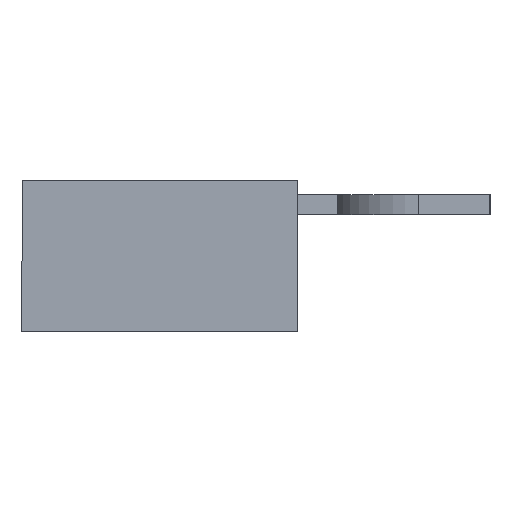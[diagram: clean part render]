
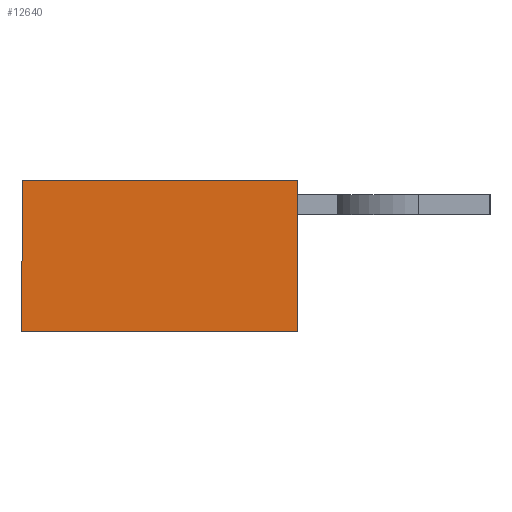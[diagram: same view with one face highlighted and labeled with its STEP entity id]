
A CAD part, left-side view. The second image highlights one B-rep face of the part: STEP entity #12640.
In plain terms, the highlighted planar face has unit normal (-1, 0, 0).
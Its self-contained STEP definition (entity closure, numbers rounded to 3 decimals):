
#122 = EDGE_CURVE ( 'NONE', #16630, #7604, #587, .T. ) ;
#587 = LINE ( 'NONE', #8729, #2507 ) ;
#630 = EDGE_CURVE ( 'NONE', #9150, #16630, #17946, .T. ) ;
#1161 = EDGE_CURVE ( 'NONE', #7087, #9150, #13215, .T. ) ;
#1880 = CARTESIAN_POINT ( 'NONE',  ( 0., 0., 0. ) ) ;
#2165 = CARTESIAN_POINT ( 'NONE',  ( 0., 0., -10.5 ) ) ;
#2507 = VECTOR ( 'NONE', #21323, 1000. ) ;
#3591 = VECTOR ( 'NONE', #22267, 1000. ) ;
#4892 = ORIENTED_EDGE ( 'NONE', *, *, #122, .F. ) ;
#5125 = FACE_OUTER_BOUND ( 'NONE', #13442, .T. ) ;
#6306 = ORIENTED_EDGE ( 'NONE', *, *, #630, .F. ) ;
#7087 = VERTEX_POINT ( 'NONE', #14957 ) ;
#7130 = DIRECTION ( 'NONE',  ( 1., 0., 0. ) ) ;
#7199 = ORIENTED_EDGE ( 'NONE', *, *, #1161, .F. ) ;
#7604 = VERTEX_POINT ( 'NONE', #2165 ) ;
#8539 = VECTOR ( 'NONE', #10444, 1000. ) ;
#8579 = VECTOR ( 'NONE', #21608, 1000. ) ;
#8729 = CARTESIAN_POINT ( 'NONE',  ( 0., 0., -10.5 ) ) ;
#9150 = VERTEX_POINT ( 'NONE', #14058 ) ;
#9755 = AXIS2_PLACEMENT_3D ( 'NONE', #1880, #7130, #12587 ) ;
#10444 = DIRECTION ( 'NONE',  ( 0., 0., 1. ) ) ;
#10452 = LINE ( 'NONE', #17135, #3591 ) ;
#10808 = PLANE ( 'NONE',  #9755 ) ;
#11902 = CARTESIAN_POINT ( 'NONE',  ( 0., 19.1, 0. ) ) ;
#12277 = CARTESIAN_POINT ( 'NONE',  ( 0., 19.1, -10.5 ) ) ;
#12587 = DIRECTION ( 'NONE',  ( 0., 0., -1. ) ) ;
#12640 = ADVANCED_FACE ( 'NONE', ( #5125 ), #10808, .F. ) ;
#13215 = LINE ( 'NONE', #12277, #8539 ) ;
#13442 = EDGE_LOOP ( 'NONE', ( #17223, #4892, #6306, #7199 ) ) ;
#14058 = CARTESIAN_POINT ( 'NONE',  ( 0., 19.1, 0. ) ) ;
#14957 = CARTESIAN_POINT ( 'NONE',  ( 0., 19.1, -10.5 ) ) ;
#16630 = VERTEX_POINT ( 'NONE', #17039 ) ;
#17039 = CARTESIAN_POINT ( 'NONE',  ( 0., 0., 0. ) ) ;
#17135 = CARTESIAN_POINT ( 'NONE',  ( 0., 0., -10.5 ) ) ;
#17223 = ORIENTED_EDGE ( 'NONE', *, *, #18902, .F. ) ;
#17946 = LINE ( 'NONE', #11902, #8579 ) ;
#18902 = EDGE_CURVE ( 'NONE', #7604, #7087, #10452, .T. ) ;
#21323 = DIRECTION ( 'NONE',  ( 0., 0., -1. ) ) ;
#21608 = DIRECTION ( 'NONE',  ( 0., -1., 0. ) ) ;
#22267 = DIRECTION ( 'NONE',  ( 0., 1., 0. ) ) ;
